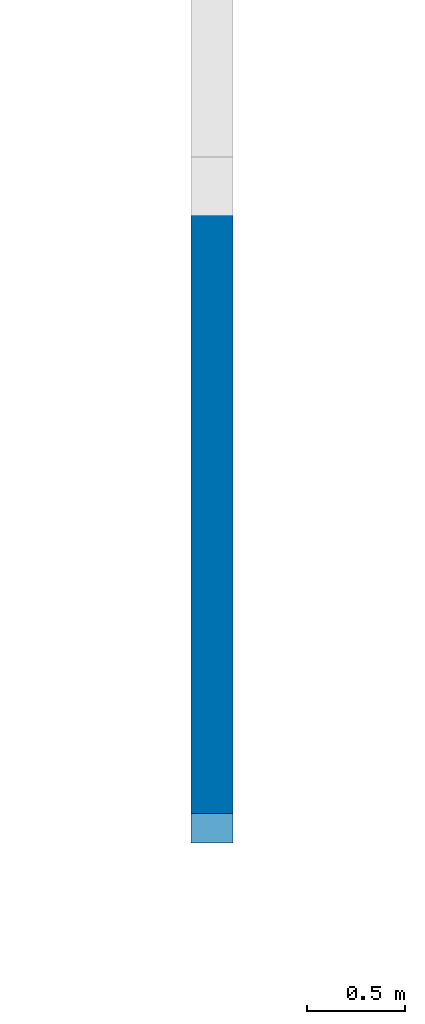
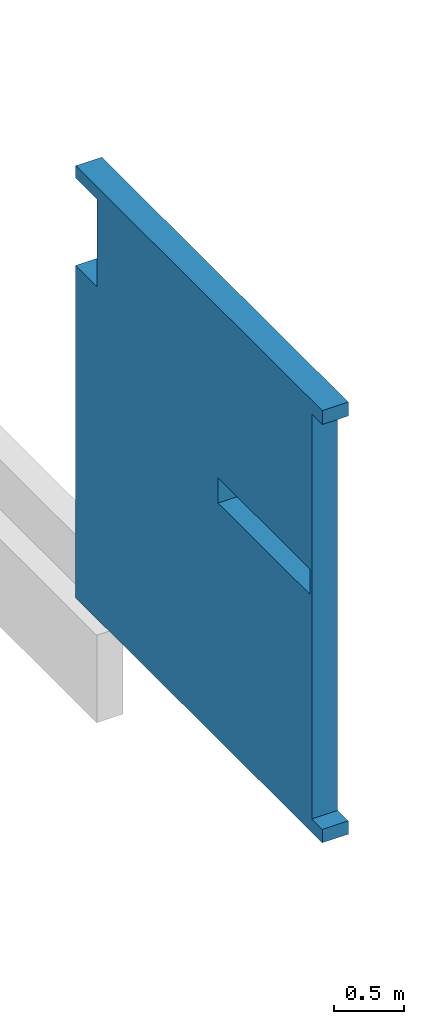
# One storey, part 3 of 3: 1 wall.
"""IFC2X3 building model written with IfcOpenShell, lengths in millimetres."""

from ifc_helpers import new_model, entity, si_unit, converted_unit, derived_unit, direction, frame, origin, place, context, subcontext, project, spatial, faceted_brep, material, layer, layer_set, type_object, element, save


model = new_model("IFC2X3")

# Units and contexts
model_context = context("Model", 3, precision=0.01, world=origin(), true_north=direction((6.123031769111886e-17, 1.0)))
body_context = subcontext(model_context, "Body", "Model", "MODEL_VIEW")
ifc_project = project(units=[si_unit("LENGTHUNIT", "METRE", prefix="MILLI"), si_unit("AREAUNIT", "SQUARE_METRE", prefix="MILLI"), si_unit("VOLUMEUNIT", "CUBIC_METRE"), converted_unit("PLANEANGLEUNIT", "DEGREE", entity("IfcPlaneAngleMeasure", 0.017453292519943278), si_unit("PLANEANGLEUNIT", "RADIAN"), dimensions=[0, 0, 0, 0, 0, 0, 0]), si_unit("MASSUNIT", "GRAM", prefix="KILO"), derived_unit("MASSDENSITYUNIT", [(si_unit("MASSUNIT", "GRAM", prefix="KILO"), 1), (si_unit("LENGTHUNIT", "METRE"), -3)]), derived_unit("IONCONCENTRATIONUNIT", [(si_unit("MASSUNIT", "GRAM", prefix="KILO"), 1), (si_unit("LENGTHUNIT", "METRE"), -3)]), derived_unit("MOMENTOFINERTIAUNIT", [(si_unit("LENGTHUNIT", "METRE"), 4)]), si_unit("TIMEUNIT", "SECOND"), si_unit("FREQUENCYUNIT", "HERTZ"), si_unit("THERMODYNAMICTEMPERATUREUNIT", "DEGREE_CELSIUS"), derived_unit("THERMALTRANSMITTANCEUNIT", [(si_unit("MASSUNIT", "GRAM", prefix="KILO"), 1), (si_unit("THERMODYNAMICTEMPERATUREUNIT", "KELVIN"), -1), (si_unit("TIMEUNIT", "SECOND"), -3)]), derived_unit("THERMALCONDUCTANCEUNIT", [(si_unit("MASSUNIT", "GRAM", prefix="KILO"), 1), (si_unit("THERMODYNAMICTEMPERATUREUNIT", "KELVIN"), -1), (si_unit("TIMEUNIT", "SECOND"), -3), (si_unit("LENGTHUNIT", "METRE"), 1)]), derived_unit("VOLUMETRICFLOWRATEUNIT", [(si_unit("LENGTHUNIT", "METRE", prefix="DECI"), 3), (si_unit("TIMEUNIT", "SECOND"), -1)]), derived_unit("MASSFLOWRATEUNIT", [(si_unit("MASSUNIT", "GRAM", prefix="KILO"), 1), (si_unit("TIMEUNIT", "SECOND"), -1)]), derived_unit("ROTATIONALFREQUENCYUNIT", [(si_unit("TIMEUNIT", "SECOND"), -1)]), si_unit("ELECTRICCURRENTUNIT", "AMPERE"), si_unit("ELECTRICVOLTAGEUNIT", "VOLT"), si_unit("POWERUNIT", "WATT"), si_unit("FORCEUNIT", "NEWTON", prefix="KILO"), si_unit("ILLUMINANCEUNIT", "LUX"), si_unit("LUMINOUSFLUXUNIT", "LUMEN"), si_unit("LUMINOUSINTENSITYUNIT", "CANDELA"), si_unit("ENERGYUNIT", "JOULE"), derived_unit("USERDEFINED", [(si_unit("MASSUNIT", "GRAM", prefix="KILO"), -1), (si_unit("LENGTHUNIT", "METRE"), -2), (si_unit("TIMEUNIT", "SECOND"), 3), (si_unit("LUMINOUSFLUXUNIT", "LUMEN"), 1)]), derived_unit("USERDEFINED", [(si_unit("MASSUNIT", "GRAM", prefix="KILO"), 1), (si_unit("TIMEUNIT", "SECOND"), -3), (si_unit("LENGTHUNIT", "METRE"), 3), (si_unit("ELECTRICCURRENTUNIT", "AMPERE"), -2)]), derived_unit("SOUNDPOWERUNIT", [(si_unit("MASSUNIT", "GRAM", prefix="KILO"), 1), (si_unit("TIMEUNIT", "SECOND"), -3), (si_unit("LENGTHUNIT", "METRE"), 2)]), derived_unit("SOUNDPRESSUREUNIT", [(si_unit("MASSUNIT", "GRAM", prefix="KILO"), 1), (si_unit("LENGTHUNIT", "METRE"), -1), (si_unit("TIMEUNIT", "SECOND"), -2)]), derived_unit("LINEARVELOCITYUNIT", [(si_unit("LENGTHUNIT", "METRE"), 1), (si_unit("TIMEUNIT", "SECOND"), -1)]), si_unit("PRESSUREUNIT", "PASCAL"), derived_unit("USERDEFINED", [(si_unit("MASSUNIT", "GRAM", prefix="KILO"), 1), (si_unit("LENGTHUNIT", "METRE"), -2), (si_unit("TIMEUNIT", "SECOND"), -2)]), derived_unit("LINEARFORCEUNIT", [(si_unit("MASSUNIT", "GRAM", prefix="KILO"), 1), (si_unit("TIMEUNIT", "SECOND"), -2)]), derived_unit("PLANARFORCEUNIT", [(si_unit("MASSUNIT", "GRAM", prefix="KILO"), 1), (si_unit("LENGTHUNIT", "METRE"), -1), (si_unit("TIMEUNIT", "SECOND"), -2)]), derived_unit("SPECIFICHEATCAPACITYUNIT", [(si_unit("THERMODYNAMICTEMPERATUREUNIT", "KELVIN"), -1), (si_unit("LENGTHUNIT", "METRE"), 2), (si_unit("TIMEUNIT", "SECOND"), -2)]), derived_unit("HEATFLUXDENSITYUNIT", [(si_unit("MASSUNIT", "GRAM", prefix="KILO"), 1), (si_unit("TIMEUNIT", "SECOND"), -3)]), derived_unit("HEATINGVALUEUNIT", [(si_unit("LENGTHUNIT", "METRE"), 2), (si_unit("TIMEUNIT", "SECOND"), -2)]), derived_unit("VAPORPERMEABILITYUNIT", [(si_unit("LENGTHUNIT", "METRE"), -1), (si_unit("TIMEUNIT", "SECOND"), 1)]), derived_unit("DYNAMICVISCOSITYUNIT", [(si_unit("MASSUNIT", "GRAM", prefix="KILO"), 1), (si_unit("TIMEUNIT", "SECOND"), -1), (si_unit("LENGTHUNIT", "METRE"), -1)]), derived_unit("THERMALEXPANSIONCOEFFICIENTUNIT", [(si_unit("THERMODYNAMICTEMPERATUREUNIT", "KELVIN"), -1)]), derived_unit("MODULUSOFELASTICITYUNIT", [(si_unit("MASSUNIT", "GRAM", prefix="KILO"), 1), (si_unit("LENGTHUNIT", "METRE"), -1), (si_unit("TIMEUNIT", "SECOND"), -2)]), derived_unit("ISOTHERMALMOISTURECAPACITYUNIT", [(si_unit("MASSUNIT", "GRAM", prefix="KILO"), -1), (si_unit("LENGTHUNIT", "METRE"), 3)]), derived_unit("MOISTUREDIFFUSIVITYUNIT", [(si_unit("TIMEUNIT", "SECOND"), -1), (si_unit("LENGTHUNIT", "METRE"), 2)]), derived_unit("MASSPERLENGTHUNIT", [(si_unit("MASSUNIT", "GRAM", prefix="KILO"), 1), (si_unit("LENGTHUNIT", "METRE"), -1)]), derived_unit("THERMALRESISTANCEUNIT", [(si_unit("MASSUNIT", "GRAM", prefix="KILO"), -1), (si_unit("TIMEUNIT", "SECOND"), 3), (si_unit("THERMODYNAMICTEMPERATUREUNIT", "KELVIN"), 1)]), derived_unit("ACCELERATIONUNIT", [(si_unit("LENGTHUNIT", "METRE"), 1), (si_unit("TIMEUNIT", "SECOND"), -2)]), derived_unit("ANGULARVELOCITYUNIT", [(si_unit("TIMEUNIT", "SECOND"), -1), (si_unit("PLANEANGLEUNIT", "RADIAN"), 1)]), derived_unit("LINEARSTIFFNESSUNIT", [(si_unit("MASSUNIT", "GRAM", prefix="KILO"), 1), (si_unit("TIMEUNIT", "SECOND"), -2)]), derived_unit("WARPINGCONSTANTUNIT", [(si_unit("LENGTHUNIT", "METRE"), 6)]), derived_unit("LINEARMOMENTUNIT", [(si_unit("MASSUNIT", "GRAM", prefix="KILO"), 1), (si_unit("LENGTHUNIT", "METRE"), 1), (si_unit("TIMEUNIT", "SECOND"), -2)]), derived_unit("TORQUEUNIT", [(si_unit("MASSUNIT", "GRAM", prefix="KILO"), 1), (si_unit("LENGTHUNIT", "METRE"), 2), (si_unit("TIMEUNIT", "SECOND"), -2)])], contexts=[model_context])

# Site, building, storey
site_placement = place(None, origin())
site = spatial("IfcSite", under=ifc_project, at=site_placement, Name="Default", CompositionType="ELEMENT")
building_placement = place(site_placement, origin())
building = spatial("IfcBuilding", under=site, at=building_placement, CompositionType="ELEMENT")
storey_placement = place(building_placement, frame((0.0, 0.0, 2550.0)))
storey = spatial("IfcBuildingStorey", under=building, at=storey_placement, Name="KDV V1 1e verd. (bk ruwe vloer)", CompositionType="ELEMENT", Elevation=2550.000000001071)

# Wall
ifc_material = material(Name="Kalkzandsteen, lijmwerk CS12")
ifc_layer = layer(ifc_material, 214.0)
ifc_layer_set = layer_set([ifc_layer], Name="Basic Wall:bt_kzst 214")
wall_type = type_object("IfcWallType", Name="Basic Wall:bt_kzst 214", PredefinedType="STANDARD", material=ifc_layer_set)
wall_placement = place(storey_placement, frame((6718.000781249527, 21011.0503279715, 1063.0999999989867), z_axis=(0.0, 0.0, 1.0), x_axis=(0.0, -1.0, 0.0)))
element("IfcWall", 1, at=wall_placement, inside=storey, type_object=wall_type, Name="Basic Wall:bt_kzst 214", ObjectType="Basic Wall:bt_kzst 214", context=body_context, shape_type="Brep", body=[
    faceted_brep([(0.0, -107.0, 0.0), (3516.445314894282, -107.0, 0.0), (3516.445314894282, -107.0, 116.90000000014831), (3366.445314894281, -107.0, 116.90000000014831), (3366.445314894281, -107.0, 3641.900000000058), (3516.445314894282, -107.0, 3641.900000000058), (3516.445314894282, -107.0, 3762.860934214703), (0.0, -107.0, 3762.860934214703), (0.0, -107.0, 3656.899999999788), (300.0, -107.0, 3656.899999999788), (300.0, -107.0, 2894.899999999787), (0.0, -107.0, 2894.899999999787), (0.0, -107.0, 116.89999999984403), (2030.267496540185, -107.0, 2056.900000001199), (2030.267496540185, -107.0, 2276.9000000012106), (3341.4453148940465, -107.0, 2276.9000000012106), (3341.4453148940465, -107.0, 2056.900000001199), (3516.445314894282, 107.0, 0.0), (0.0, 107.0, 0.0), (0.0, 107.0, 116.89999999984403), (0.0, 107.0, 2894.899999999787), (300.0, 107.0, 2894.899999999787), (300.0, 107.0, 3656.899999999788), (0.0, 107.0, 3656.899999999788), (0.0, 107.0, 3762.860934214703), (3516.445314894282, 107.0, 3762.860934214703), (3516.445314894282, 107.0, 3641.900000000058), (3366.445314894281, 107.0, 3641.900000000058), (3366.445314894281, 107.0, 116.90000000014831), (3516.445314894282, 107.0, 116.90000000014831), (2030.267496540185, 107.0, 2276.9000000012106), (2030.267496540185, 107.0, 2056.900000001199), (3341.4453148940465, 107.0, 2056.900000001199), (3341.4453148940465, 107.0, 2276.9000000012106)], [[[0, 1, 2, 3, 4, 5, 6, 7, 8, 9, 10, 11, 12], [13, 14, 15, 16]], [[17, 18, 19, 20, 21, 22, 23, 24, 25, 26, 27, 28, 29], [30, 31, 32, 33]], [[1, 0, 18, 17]], [[7, 6, 25, 24]], [[18, 0, 12, 11, 20, 19]], [[22, 9, 8, 23]], [[10, 21, 20, 11]], [[9, 22, 21, 10]], [[30, 14, 13, 31]], [[32, 16, 15, 33]], [[31, 13, 16, 32]], [[14, 30, 33, 15]], [[1, 17, 29, 2]], [[3, 2, 29, 28]], [[25, 6, 5, 26]], [[26, 5, 4, 27]], [[4, 3, 28, 27]], [[7, 24, 23, 8]]]),
])

save(model, "model.ifc")
